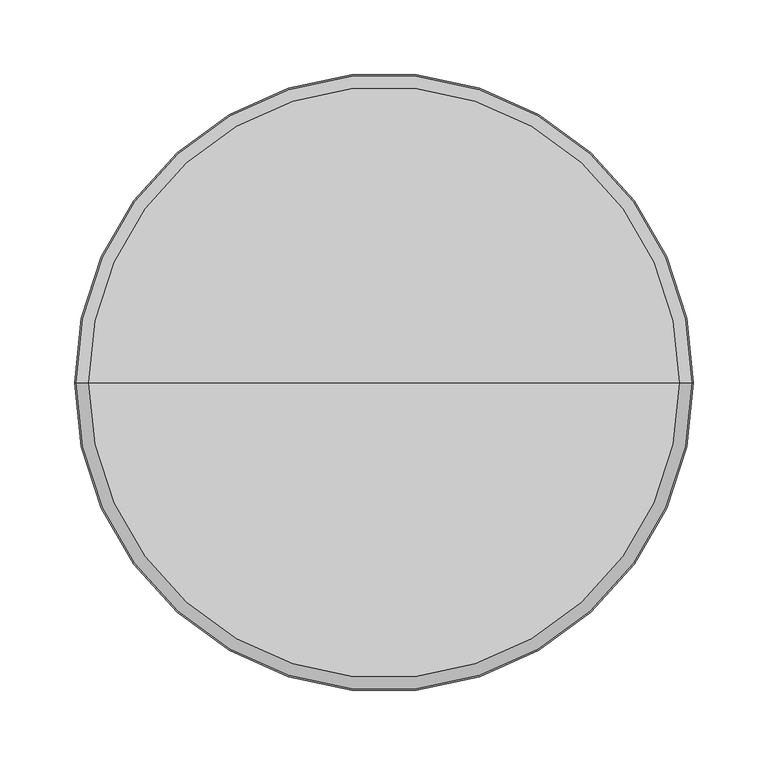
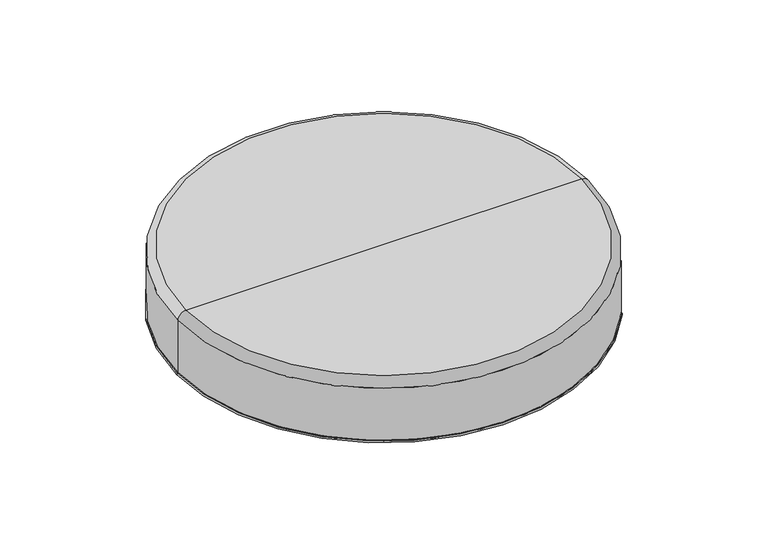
"""IFC4 building model written with IfcOpenShell, lengths in millimetres: valve geometry, Pipelife - Studnia PRO - Pokrywa studni 400 : GŁ 400."""

from ifc_helpers import new_model, si_unit, point, frame, origin, place, context, project, spatial, polyline, circle_curve, ellipse_curve, trimmed, source, transform, mapped, element, save
from ifc_brep_helpers import plane_surface, cylinder_surface, revolved_surface, advanced_brep


def valve_0c5388d3(model_context):
    return source(origin(), model_context, "Body", "AdvancedBrep", [
        advanced_brep(
        [(-207.0, 0.0, 0.0), (207.0, 0.0, 0.0), (201.0, 0.0, 0.0), (0.0, 201.0, 0.0), (-201.0, 0.0, 0.0), (0.0, -201.0, 0.0), (-207.0, 0.0, 2.0), (207.0, 0.0, 2.0), (-206.0, 0.0, 2.0), (206.0, 0.0, 2.0), (-206.0, 0.0, 57.0), (206.0, 0.0, 57.0), (-198.0, 0.0, 65.0), (198.0, 0.0, 65.0), (0.0, 0.0, 65.0), (0.0, 201.0, 55.0), (0.0, -201.0, 55.0)],
        [
            (0, 1, circle_curve(frame((0.0, 0.0, 0.0), z_axis=(0.0, 0.0, -1.0), x_axis=(1.0, 0.0, 0.0)), 207.0)),
            (1, 2),
            (2, 3, circle_curve(frame((0.0, 0.0, 0.0), z_axis=(0.0, 0.0, 1.0), x_axis=(0.0, -1.0, 0.0)), 201.0)),
            (3, 4, circle_curve(frame((0.0, 0.0, 0.0), z_axis=(0.0, 0.0, 1.0), x_axis=(0.0, -1.0, 0.0)), 201.0)),
            (4, 0),
            (1, 0, circle_curve(frame((0.0, 0.0, 0.0), z_axis=(0.0, 0.0, -1.0), x_axis=(1.0, 0.0, 0.0)), 207.0)),
            (4, 5, circle_curve(frame((0.0, 0.0, 0.0), z_axis=(0.0, 0.0, 1.0), x_axis=(0.0, -1.0, 0.0)), 201.0)),
            (5, 2, circle_curve(frame((0.0, 0.0, 0.0), z_axis=(0.0, 0.0, 1.0), x_axis=(0.0, -1.0, 0.0)), 201.0)),
            (0, 6),
            (6, 7, circle_curve(frame((0.0, 0.0, 2.0), z_axis=(0.0, 0.0, -1.0), x_axis=(1.0, 0.0, 0.0)), 207.0)),
            (7, 1),
            (7, 6, circle_curve(frame((0.0, 0.0, 2.0), z_axis=(0.0, 0.0, -1.0), x_axis=(1.0, 0.0, 0.0)), 207.0)),
            (6, 8),
            (8, 9, circle_curve(frame((0.0, 0.0, 2.0), z_axis=(0.0, 0.0, -1.0), x_axis=(1.0, 0.0, 0.0)), 206.0)),
            (9, 7),
            (9, 8, circle_curve(frame((0.0, 0.0, 2.0), z_axis=(0.0, 0.0, -1.0), x_axis=(1.0, 0.0, 0.0)), 206.0)),
            (8, 10),
            (10, 11, circle_curve(frame((0.0, 0.0, 57.0), z_axis=(0.0, 0.0, -1.0), x_axis=(1.0, 0.0, 0.0)), 206.0)),
            (11, 9),
            (11, 10, circle_curve(frame((0.0, 0.0, 57.0), z_axis=(0.0, 0.0, -1.0), x_axis=(1.0, 0.0, 0.0)), 206.0)),
            (10, 12, circle_curve(frame((-198.0, 0.0, 57.0), z_axis=(0.0, 1.0, 0.0), x_axis=(-1.0, 0.0, 0.0)), 8.0)),
            (12, 13, circle_curve(frame((0.0, 0.0, 65.0), z_axis=(0.0, 0.0, -1.0), x_axis=(1.0, 0.0, 0.0)), 198.0)),
            (13, 11, circle_curve(frame((198.0, 0.0, 57.0), z_axis=(0.0, 1.0, 0.0), x_axis=(1.0, 0.0, 0.0)), 8.0)),
            (13, 12, circle_curve(frame((0.0, 0.0, 65.0), z_axis=(0.0, 0.0, -1.0), x_axis=(1.0, 0.0, 0.0)), 198.0)),
            (12, 14),
            (14, 13),
            (15, 16, circle_curve(frame((0.0, 0.0, 55.0), z_axis=(0.0, 0.0, -1.0), x_axis=(0.0, -1.0, 0.0)), 201.0)),
            (16, 15, circle_curve(frame((0.0, 0.0, 55.0), z_axis=(0.0, 0.0, -1.0), x_axis=(0.0, -1.0, 0.0)), 201.0)),
            (16, 5),
            (3, 15),
        ],
        [
            plane_surface(frame((0.0, 0.0, 0.0), z_axis=(0.0, 0.0, -1.0), x_axis=(1.0, 0.0, 0.0))),
            cylinder_surface(frame((0.0, 0.0, 145.0), z_axis=(0.0, 0.0, 1.0), x_axis=(1.0, 0.0, 0.0)), 207.0),
            plane_surface(frame((0.0, 0.0, 2.0), z_axis=(0.0, 0.0, 1.0), x_axis=(1.0, 0.0, 0.0))),
            cylinder_surface(frame((0.0, 0.0, 145.0), z_axis=(0.0, 0.0, 1.0), x_axis=(1.0, 0.0, 0.0)), 206.0),
            revolved_surface(trimmed(ellipse_curve(frame((198.0, 0.0, 57.0), z_axis=(0.0, -1.0, 0.0), x_axis=(1.0, 0.0, 0.0)), 8.0, 8.0), [point((206.0, 0.0, 57.0))], [point((198.0, 0.0, 65.0))], True, "CARTESIAN"), (0.0, 0.0, 145.0), (0.0, 0.0, 1.0)),
            plane_surface(frame((0.0, 0.0, 65.0), z_axis=(0.0, 0.0, 1.0), x_axis=(1.0, 0.0, 0.0))),
            plane_surface(frame((0.0, 0.0, 55.0), z_axis=(0.0, 0.0, -1.0), x_axis=(0.0, -1.0, 0.0))),
            revolved_surface(polyline([(0.0, -201.0, 55.0), (0.0, -201.0, 0.0)]), (0.0, 0.0, 55.0), (0.0, 0.0, 1.0)),
        ],
        [
            (0, [[1, 2, 3, 4, 5]]),
            (0, [[6, -5, 7, 8, -2]]),
            (1, [[-1, 9, 10, 11]]),
            (1, [[-6, -11, 12, -9]]),
            (2, [[-10, 13, 14, 15]]),
            (2, [[-12, -15, 16, -13]]),
            (3, [[-14, 17, 18, 19]]),
            (3, [[-16, -19, 20, -17]]),
            (4, [[-18, 21, 22, 23]]),
            (4, [[-20, -23, 24, -21]]),
            (5, [[-22, 25, 26]]),
            (5, [[-24, -26, -25]]),
            (6, [[27, 28]]),
            (7, [[-28, 29, -7, -4, 30]]),
            (7, [[-27, -30, -3, -8, -29]]),
        ],
    ),
    ])


if __name__ == "__main__":
    model = new_model("IFC4")
    model_context = context("Model", 3, world=origin())
    ifc_project = project(units=[si_unit("LENGTHUNIT", "METRE", prefix="MILLI")], contexts=[model_context])
    site = spatial("IfcSite", under=ifc_project)
    building = spatial("IfcBuilding", under=site)
    placement = place(None, origin())
    valve_shape = valve_0c5388d3(model_context)
    element("IfcValve", 1, ObjectType="Pipelife - Studnia PRO - Pokrywa studni 400 : GŁ 400", at=placement, inside=building, context=model_context, shape_type="MappedRepresentation", body=[
        mapped(valve_shape, transform((0.0, 0.0, 0.0), x_axis=(1.0, 0.0, 0.0), y_axis=(0.0, 1.0, 0.0), z_axis=(0.0, 0.0, 1.0))),
    ])
    save(model, "model.ifc")
